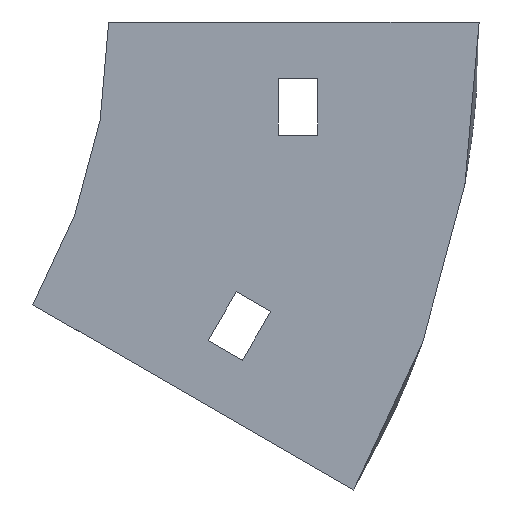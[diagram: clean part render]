
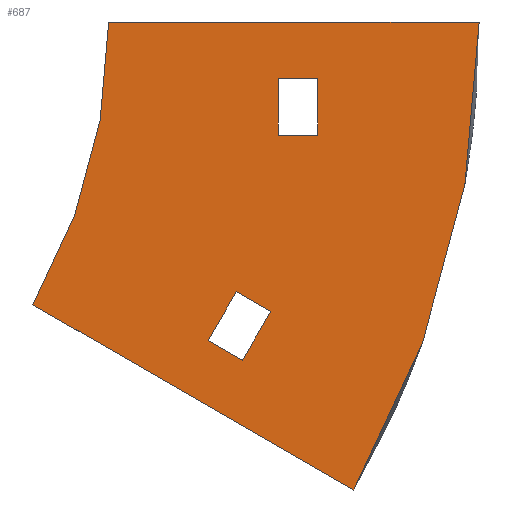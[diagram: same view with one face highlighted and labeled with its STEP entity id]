
A CAD part, left-side view. The second image highlights one B-rep face of the part: STEP entity #687.
In plain terms, the highlighted planar face has unit normal (-1, 0, 0).
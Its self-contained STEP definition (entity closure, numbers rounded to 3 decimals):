
#10 = ORIENTED_EDGE ( 'NONE', *, *, #816, .F. ) ;
#38 = VECTOR ( 'NONE', #676, 1000. ) ;
#41 = VERTEX_POINT ( 'NONE', #726 ) ;
#42 = DIRECTION ( 'NONE',  ( 0., -0.866, -0.5 ) ) ;
#54 = EDGE_CURVE ( 'NONE', #373, #41, #241, .T. ) ;
#60 = LINE ( 'NONE', #590, #1126 ) ;
#66 = EDGE_CURVE ( 'NONE', #714, #459, #963, .T. ) ;
#70 = CARTESIAN_POINT ( 'NONE',  ( -152., -22.583, -47.679 ) ) ;
#86 = CARTESIAN_POINT ( 'NONE',  ( -152., -30., -20. ) ) ;
#102 = EDGE_CURVE ( 'NONE', #1095, #526, #636, .T. ) ;
#107 = DIRECTION ( 'NONE',  ( 0., 0., 1. ) ) ;
#136 = EDGE_CURVE ( 'NONE', #526, #1062, #256, .T. ) ;
#157 = VECTOR ( 'NONE', #107, 1000. ) ;
#162 = VERTEX_POINT ( 'NONE', #601 ) ;
#183 = ORIENTED_EDGE ( 'NONE', *, *, #281, .F. ) ;
#185 = CARTESIAN_POINT ( 'NONE',  ( -152., 100., 0. ) ) ;
#200 = CARTESIAN_POINT ( 'NONE',  ( -152., -37., -10. ) ) ;
#206 = PLANE ( 'NONE',  #693 ) ;
#207 = CARTESIAN_POINT ( 'NONE',  ( -152., -30., -10. ) ) ;
#211 = CARTESIAN_POINT ( 'NONE',  ( -152., -30., -10. ) ) ;
#218 = CARTESIAN_POINT ( 'NONE',  ( -152., -17.583, -56.34 ) ) ;
#223 = VECTOR ( 'NONE', #407, 1000. ) ;
#239 = CARTESIAN_POINT ( 'NONE',  ( -152., -65.5, 0. ) ) ;
#241 = LINE ( 'NONE', #70, #38 ) ;
#256 = LINE ( 'NONE', #264, #1053 ) ;
#264 = CARTESIAN_POINT ( 'NONE',  ( -152., -65.5, 0. ) ) ;
#281 = EDGE_CURVE ( 'NONE', #1062, #594, #888, .T. ) ;
#285 = ORIENTED_EDGE ( 'NONE', *, *, #678, .T. ) ;
#297 = DIRECTION ( 'NONE',  ( -1., 0., 0. ) ) ;
#322 = ORIENTED_EDGE ( 'NONE', *, *, #136, .F. ) ;
#344 = CARTESIAN_POINT ( 'NONE',  ( -152., -30., -20. ) ) ;
#373 = VERTEX_POINT ( 'NONE', #1098 ) ;
#378 = FACE_OUTER_BOUND ( 'NONE', #820, .T. ) ;
#406 = EDGE_LOOP ( 'NONE', ( #1122, #10, #850, #907 ) ) ;
#407 = DIRECTION ( 'NONE',  ( 0., 0.5, -0.866 ) ) ;
#416 = EDGE_CURVE ( 'NONE', #162, #659, #814, .T. ) ;
#418 = AXIS2_PLACEMENT_3D ( 'NONE', #185, #1065, #883 ) ;
#455 = VECTOR ( 'NONE', #983, 1000. ) ;
#459 = VERTEX_POINT ( 'NONE', #86 ) ;
#469 = CARTESIAN_POINT ( 'NONE',  ( -152., -43.327, -82.75 ) ) ;
#473 = CARTESIAN_POINT ( 'NONE',  ( -152., 100., 0. ) ) ;
#475 = ORIENTED_EDGE ( 'NONE', *, *, #846, .F. ) ;
#490 = CARTESIAN_POINT ( 'NONE',  ( -152., 13.397, -50. ) ) ;
#505 = CARTESIAN_POINT ( 'NONE',  ( -152., -23.645, -59.84 ) ) ;
#526 = VERTEX_POINT ( 'NONE', #1057 ) ;
#541 = CARTESIAN_POINT ( 'NONE',  ( -152., -23.645, -59.84 ) ) ;
#552 = CARTESIAN_POINT ( 'NONE',  ( -152., 100., 0. ) ) ;
#575 = EDGE_CURVE ( 'NONE', #459, #162, #898, .T. ) ;
#579 = AXIS2_PLACEMENT_3D ( 'NONE', #473, #297, #1006 ) ;
#582 = DIRECTION ( 'NONE',  ( 0., -1., 0. ) ) ;
#588 = VECTOR ( 'NONE', #970, 1000. ) ;
#590 = CARTESIAN_POINT ( 'NONE',  ( -152., 13.397, -50. ) ) ;
#594 = VERTEX_POINT ( 'NONE', #469 ) ;
#601 = CARTESIAN_POINT ( 'NONE',  ( -152., -30., -10. ) ) ;
#605 = DIRECTION ( 'NONE',  ( 0., -1., 0. ) ) ;
#622 = ORIENTED_EDGE ( 'NONE', *, *, #416, .T. ) ;
#629 = LINE ( 'NONE', #200, #455 ) ;
#636 = CIRCLE ( 'NONE', #579, 100. ) ;
#653 = CARTESIAN_POINT ( 'NONE',  ( -152., -17.583, -56.34 ) ) ;
#659 = VERTEX_POINT ( 'NONE', #822 ) ;
#671 = ORIENTED_EDGE ( 'NONE', *, *, #575, .T. ) ;
#676 = DIRECTION ( 'NONE',  ( 0., 0.866, 0.5 ) ) ;
#678 = EDGE_CURVE ( 'NONE', #659, #714, #629, .T. ) ;
#679 = DIRECTION ( 'NONE',  ( 0., 0.866, 0.5 ) ) ;
#687 = ADVANCED_FACE ( 'NONE', ( #378, #1069, #722 ), #206, .F. ) ;
#693 = AXIS2_PLACEMENT_3D ( 'NONE', #552, #795, #819 ) ;
#714 = VERTEX_POINT ( 'NONE', #1003 ) ;
#722 = FACE_BOUND ( 'NONE', #406, .T. ) ;
#726 = CARTESIAN_POINT ( 'NONE',  ( -152., -22.583, -47.679 ) ) ;
#736 = EDGE_LOOP ( 'NONE', ( #671, #622, #285, #755 ) ) ;
#737 = LINE ( 'NONE', #505, #1052 ) ;
#755 = ORIENTED_EDGE ( 'NONE', *, *, #66, .T. ) ;
#763 = ORIENTED_EDGE ( 'NONE', *, *, #102, .F. ) ;
#795 = DIRECTION ( 'NONE',  ( 1., 0., 0. ) ) ;
#814 = LINE ( 'NONE', #207, #1151 ) ;
#816 = EDGE_CURVE ( 'NONE', #41, #825, #1030, .T. ) ;
#819 = DIRECTION ( 'NONE',  ( 0., 0., -1. ) ) ;
#820 = EDGE_LOOP ( 'NONE', ( #763, #475, #183, #322 ) ) ;
#822 = CARTESIAN_POINT ( 'NONE',  ( -152., -37., -10. ) ) ;
#825 = VERTEX_POINT ( 'NONE', #653 ) ;
#830 = CARTESIAN_POINT ( 'NONE',  ( -152., -17.583, -56.34 ) ) ;
#835 = EDGE_CURVE ( 'NONE', #956, #373, #737, .T. ) ;
#846 = EDGE_CURVE ( 'NONE', #594, #1095, #60, .T. ) ;
#850 = ORIENTED_EDGE ( 'NONE', *, *, #54, .F. ) ;
#883 = DIRECTION ( 'NONE',  ( 0., 0., -1. ) ) ;
#888 = CIRCLE ( 'NONE', #418, 165.5 ) ;
#898 = LINE ( 'NONE', #211, #157 ) ;
#907 = ORIENTED_EDGE ( 'NONE', *, *, #835, .F. ) ;
#911 = LINE ( 'NONE', #830, #917 ) ;
#917 = VECTOR ( 'NONE', #42, 1000. ) ;
#956 = VERTEX_POINT ( 'NONE', #541 ) ;
#963 = LINE ( 'NONE', #344, #588 ) ;
#970 = DIRECTION ( 'NONE',  ( 0., 1., 0. ) ) ;
#983 = DIRECTION ( 'NONE',  ( 0., 0., -1. ) ) ;
#1000 = EDGE_CURVE ( 'NONE', #825, #956, #911, .T. ) ;
#1003 = CARTESIAN_POINT ( 'NONE',  ( -152., -37., -20. ) ) ;
#1006 = DIRECTION ( 'NONE',  ( 0., 0., -1. ) ) ;
#1023 = DIRECTION ( 'NONE',  ( 0., -0.5, 0.866 ) ) ;
#1030 = LINE ( 'NONE', #218, #223 ) ;
#1052 = VECTOR ( 'NONE', #1023, 1000. ) ;
#1053 = VECTOR ( 'NONE', #605, 1000. ) ;
#1057 = CARTESIAN_POINT ( 'NONE',  ( -152., 0., 0. ) ) ;
#1062 = VERTEX_POINT ( 'NONE', #239 ) ;
#1065 = DIRECTION ( 'NONE',  ( 1., 0., 0. ) ) ;
#1069 = FACE_BOUND ( 'NONE', #736, .T. ) ;
#1095 = VERTEX_POINT ( 'NONE', #490 ) ;
#1098 = CARTESIAN_POINT ( 'NONE',  ( -152., -28.645, -51.179 ) ) ;
#1122 = ORIENTED_EDGE ( 'NONE', *, *, #1000, .F. ) ;
#1126 = VECTOR ( 'NONE', #679, 1000. ) ;
#1151 = VECTOR ( 'NONE', #582, 1000. ) ;
